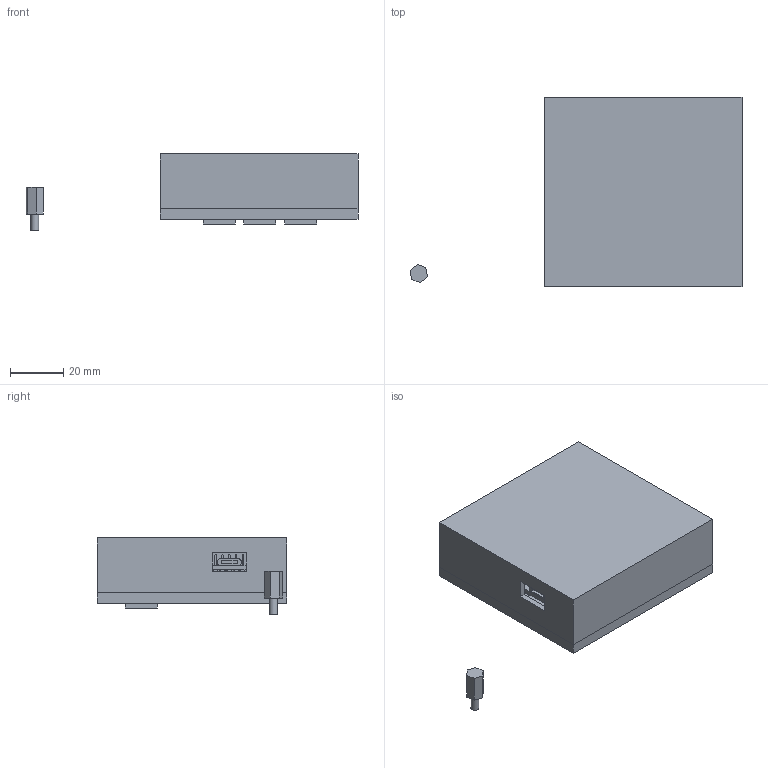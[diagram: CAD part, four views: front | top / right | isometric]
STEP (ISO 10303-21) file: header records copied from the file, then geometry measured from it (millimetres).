
FILE_DESCRIPTION(/* description */ (''),/* implementation_level */ '2;1');
FILE_NAME(/* name */ 'Teams_Mute_Case v23.step',/* time_stamp */ '2024-04-28T14:15:57+09:00',/* author */ (''),/* organization */ (''),/* preprocessor_version */ 'ST-DEVELOPER v20',/* originating_system */ 'Autodesk Translation Framework v12.20.1.177',/* authorisation */ '');
FILE_SCHEMA (('AUTOMOTIVE_DESIGN { 1 0 10303 214 3 1 1 }'));
Length unit declared in the file: millimetre
Products named in the file (34): Teams_Mute_Case; Teams_Mute; Board; Packages; 6V0-BL; AE-USB2.0-TYPE-C-5077CR_USB_C; Model (1); C050-024X044; DIL20; 74HC295_TOSHIBA_BODY; 74HC245_TOSHIBA_PIN10; 74HC245_TOSHIBA_PIN1; 74HC245_TOSHIBA_PIN2; E1,8-4; HC49/S; PIN_HEADER_2; Model (2); PIN_HEADER_3; Model (3); PIN_HEADER_6; Model (4); 0207/10; 1273HIM-160G-G_TACT_SWICH; Model; コンポーネント2; コンポーネント3; コンポーネント4; コンポーネント5; コンポーネント6; コンポーネント7; コンポーネント8; コンポーネント9; LED_3MM; Model (5)
Assembly tree (67 placements, depth 6):
  Teams_Mute_Case
    Teams_Mute
      Board
      Packages
        0207/10  x9
        6V0-BL
        AE-USB2.0-TYPE-C-5077CR_USB_C
          Model (1)
        C050-024X044  x4
        DIL20
          74HC245_TOSHIBA_PIN2  x16
          74HC295_TOSHIBA_BODY
          74HC245_TOSHIBA_PIN10  x2
          74HC245_TOSHIBA_PIN1  x2
        E1,8-4
        HC49/S
        PIN_HEADER_2
          Model (2)
        PIN_HEADER_3
          Model (3)
        PIN_HEADER_6
          Model (4)
        1273HIM-160G-G_TACT_SWICH  x3
          Model
            コンポーネント2
            コンポーネント3
            コンポーネント4
            コンポーネント5
            コンポーネント6
            コンポーネント7
            コンポーネント8
            コンポーネント9
        LED_3MM  x5
          Model (5)
Bounding box: 124.26 x 71 x 28.5 mm (x, y, z)
Volume: 44191.4 mm3; surface area: 50122.5 mm2
Topology: 131 solids, 131 shells, 2160 faces, 5149 edges, 3188 vertices
Faces by surface type: plane 1529, cylinder 326, bspline 208, torus 86, sphere 10, cone 1
Full cylindrical faces by diameter (mm): 0.35 x1, 0.6 x12, 0.63 x36, 0.65 x34, 0.7 x8, 0.711 x2, 0.8 x13, 0.813 x49, 1.02 x11, 1.2 x12, 2.47 x9, 2.6 x18, 3 x4, 3.2 x4, 3.465 x5, 3.8 x3, 4 x5, 4.62 x1, 6 x3, 7 x4
Entity records: 38171 total; most frequent: CARTESIAN_POINT 8131, DIRECTION 5915, ORIENTED_EDGE 5744, EDGE_CURVE 2872, LINE 2301, VECTOR 2301, AXIS2_PLACEMENT_3D 1807, VERTEX_POINT 1763
